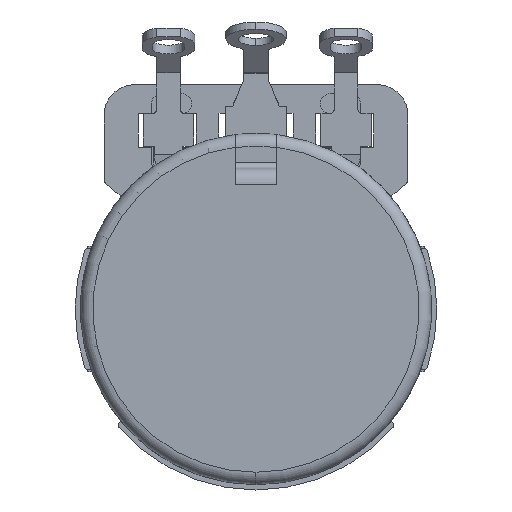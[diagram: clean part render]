
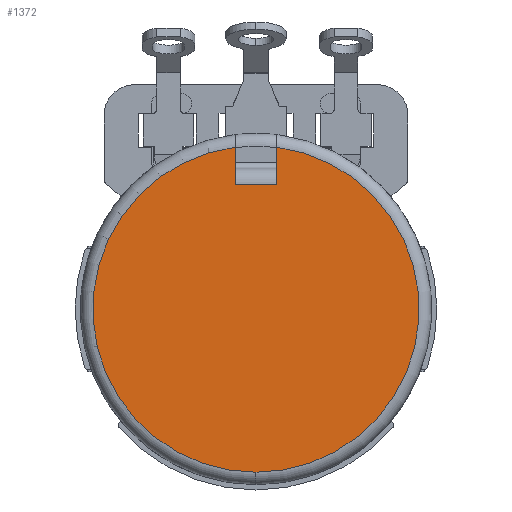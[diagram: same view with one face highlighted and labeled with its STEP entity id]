
A CAD part, front view. The second image highlights one B-rep face of the part: STEP entity #1372.
In plain terms, the highlighted planar face has unit normal (0, -1, 0).
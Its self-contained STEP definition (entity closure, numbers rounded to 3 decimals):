
#763 = EDGE_CURVE ( 'NONE', #20098, #4775, #15042, .T. ) ;
#1108 = ORIENTED_EDGE ( 'NONE', *, *, #19121, .F. ) ;
#1372 = ADVANCED_FACE ( 'NONE', ( #9988 ), #10120, .T. ) ;
#1479 = VERTEX_POINT ( 'NONE', #18427 ) ;
#1889 = EDGE_CURVE ( 'NONE', #1479, #4775, #12091, .T. ) ;
#2917 = CARTESIAN_POINT ( 'NONE',  ( -1.397, 0., 10.884 ) ) ;
#3234 = VERTEX_POINT ( 'NONE', #2917 ) ;
#4404 = DIRECTION ( 'NONE',  ( 0., -1., 0. ) ) ;
#4775 = VERTEX_POINT ( 'NONE', #10293 ) ;
#5625 = DIRECTION ( 'NONE',  ( 0., 0., 1. ) ) ;
#6137 = VECTOR ( 'NONE', #25128, 1000. ) ;
#8356 = DIRECTION ( 'NONE',  ( -1., 0., 0. ) ) ;
#8683 = VERTEX_POINT ( 'NONE', #13910 ) ;
#9157 = EDGE_CURVE ( 'NONE', #20098, #8683, #12177, .T. ) ;
#9295 = CARTESIAN_POINT ( 'NONE',  ( 1.397, 0., 12.522 ) ) ;
#9523 = CIRCLE ( 'NONE', #12793, 10.973 ) ;
#9988 = FACE_OUTER_BOUND ( 'NONE', #11474, .T. ) ;
#10120 = PLANE ( 'NONE',  #10211 ) ;
#10158 = ORIENTED_EDGE ( 'NONE', *, *, #763, .F. ) ;
#10211 = AXIS2_PLACEMENT_3D ( 'NONE', #14328, #4404, #16244 ) ;
#10270 = CARTESIAN_POINT ( 'NONE',  ( -1.397, 0., 8.382 ) ) ;
#10293 = CARTESIAN_POINT ( 'NONE',  ( 1.397, 0., 10.884 ) ) ;
#10524 = DIRECTION ( 'NONE',  ( 0., 0., -1. ) ) ;
#10935 = VECTOR ( 'NONE', #8356, 1000. ) ;
#10973 = DIRECTION ( 'NONE',  ( 0., 0., -1. ) ) ;
#11474 = EDGE_LOOP ( 'NONE', ( #10158, #22306, #1108, #15786, #13614 ) ) ;
#11847 = VECTOR ( 'NONE', #5625, 1000. ) ;
#12091 = CIRCLE ( 'NONE', #16590, 10.973 ) ;
#12177 = LINE ( 'NONE', #10270, #10935 ) ;
#12793 = AXIS2_PLACEMENT_3D ( 'NONE', #24894, #14941, #10973 ) ;
#13614 = ORIENTED_EDGE ( 'NONE', *, *, #1889, .T. ) ;
#13633 = LINE ( 'NONE', #21422, #6137 ) ;
#13910 = CARTESIAN_POINT ( 'NONE',  ( -1.397, 0., 8.382 ) ) ;
#13967 = EDGE_CURVE ( 'NONE', #3234, #1479, #9523, .T. ) ;
#14328 = CARTESIAN_POINT ( 'NONE',  ( -5.207, 0., 0. ) ) ;
#14664 = CARTESIAN_POINT ( 'NONE',  ( 1.397, 0., 8.382 ) ) ;
#14941 = DIRECTION ( 'NONE',  ( 0., -1., 0. ) ) ;
#15042 = LINE ( 'NONE', #9295, #11847 ) ;
#15786 = ORIENTED_EDGE ( 'NONE', *, *, #13967, .T. ) ;
#16244 = DIRECTION ( 'NONE',  ( 0., 0., -1. ) ) ;
#16273 = CARTESIAN_POINT ( 'NONE',  ( 0., 0., 0. ) ) ;
#16405 = DIRECTION ( 'NONE',  ( 0., -1., 0. ) ) ;
#16590 = AXIS2_PLACEMENT_3D ( 'NONE', #16273, #16405, #10524 ) ;
#18427 = CARTESIAN_POINT ( 'NONE',  ( 0., 0., -10.973 ) ) ;
#19121 = EDGE_CURVE ( 'NONE', #3234, #8683, #13633, .T. ) ;
#20098 = VERTEX_POINT ( 'NONE', #14664 ) ;
#21422 = CARTESIAN_POINT ( 'NONE',  ( -1.397, 0., 12.522 ) ) ;
#22306 = ORIENTED_EDGE ( 'NONE', *, *, #9157, .T. ) ;
#24894 = CARTESIAN_POINT ( 'NONE',  ( 0., 0., 0. ) ) ;
#25128 = DIRECTION ( 'NONE',  ( 0., 0., -1. ) ) ;
